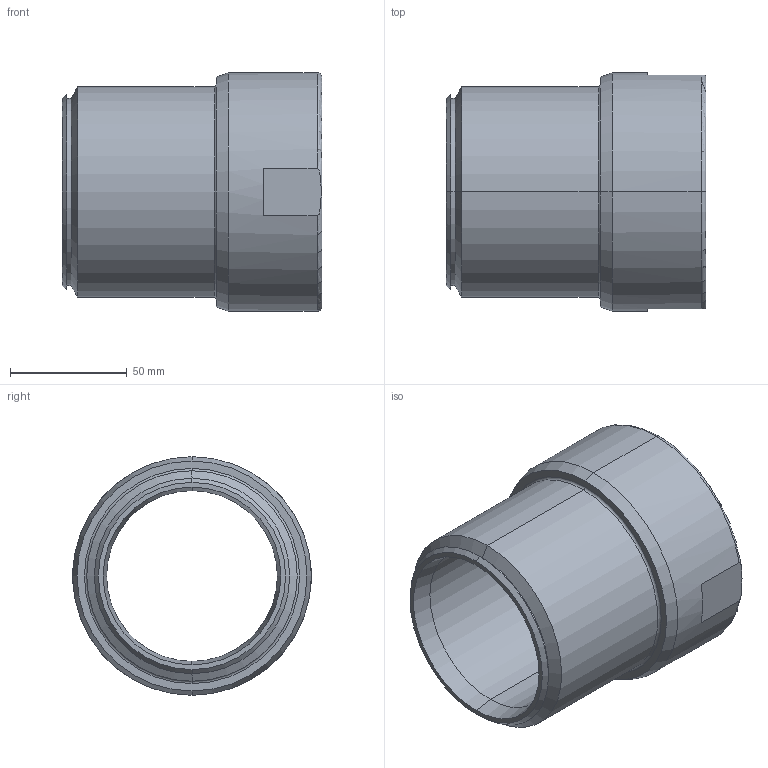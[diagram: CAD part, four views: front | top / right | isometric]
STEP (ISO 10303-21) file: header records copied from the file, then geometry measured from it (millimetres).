
FILE_DESCRIPTION (( 'STEP AP203' ), '1' );
FILE_NAME ('KP_C15-90F.step', '2011-08-08T12:04:21', ( '' ), ( '' ), 'SwSTEP 2.0', 'SolidWorks 2011', '' );
FILE_SCHEMA (( 'CONFIG_CONTROL_DESIGN' ));
Length unit declared in the file: millimetre
Products named in the file (1): KP_C15-90F
Bounding box: 111 x 102 x 102 mm (x, y, z)
Volume: 256485.4 mm3; surface area: 65448.4 mm2
Topology: 1 solids, 1 shells, 39 faces, 82 edges, 48 vertices
Faces by surface type: cone 14, cylinder 10, plane 9, torus 6
Entity records: 1217 total; most frequent: CARTESIAN_POINT 264, DIRECTION 210, ORIENTED_EDGE 164, AXIS2_PLACEMENT_3D 90, EDGE_CURVE 82, CIRCLE 50, VERTEX_POINT 48, EDGE_LOOP 44
